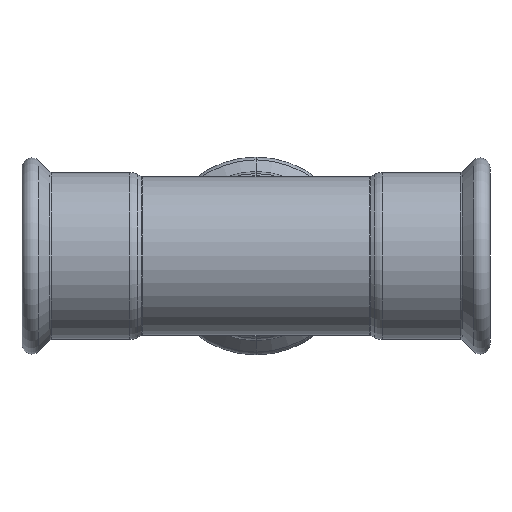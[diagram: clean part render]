
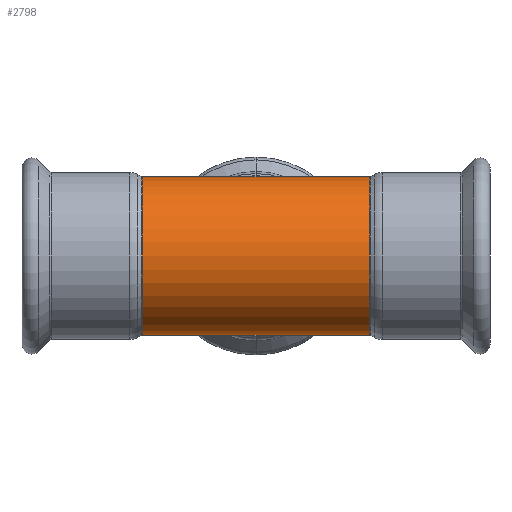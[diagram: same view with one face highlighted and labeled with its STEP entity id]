
A CAD part, front view. The second image highlights one B-rep face of the part: STEP entity #2798.
In plain terms, the highlighted cylindrical face has radius 43.95 mm (diameter 87.9 mm), a partial arc.
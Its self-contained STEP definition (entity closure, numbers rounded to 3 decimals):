
#85 = FACE_OUTER_BOUND ( 'NONE', #4021, .T. ) ;
#267 = VERTEX_POINT ( 'NONE', #1912 ) ;
#346 = LINE ( 'NONE', #1224, #2095 ) ;
#397 = CARTESIAN_POINT ( 'NONE',  ( 27.146, 0., 43.95 ) ) ;
#567 = DIRECTION ( 'NONE',  ( -1., 0., 0. ) ) ;
#726 = DIRECTION ( 'NONE',  ( -1., 0., 0. ) ) ;
#765 = VECTOR ( 'NONE', #726, 1000. ) ;
#793 = DIRECTION ( 'NONE',  ( 0., 0., 1. ) ) ;
#796 = CIRCLE ( 'NONE', #1892, 43.95 ) ;
#864 = DIRECTION ( 'NONE',  ( 0., 0., 1. ) ) ;
#927 = DIRECTION ( 'NONE',  ( -1., 0., 0. ) ) ;
#991 = CARTESIAN_POINT ( 'NONE',  ( 27.146, 0., 43.95 ) ) ;
#1029 = EDGE_CURVE ( 'NONE', #3031, #1115, #1294, .T. ) ;
#1070 = DIRECTION ( 'NONE',  ( -1., 0., 0. ) ) ;
#1115 = VERTEX_POINT ( 'NONE', #1829 ) ;
#1182 = VERTEX_POINT ( 'NONE', #1984 ) ;
#1224 = CARTESIAN_POINT ( 'NONE',  ( 27.146, 0., -43.95 ) ) ;
#1294 = LINE ( 'NONE', #991, #3966 ) ;
#1549 = VERTEX_POINT ( 'NONE', #3579 ) ;
#1689 = EDGE_CURVE ( 'NONE', #1115, #3160, #2507, .T. ) ;
#1829 = CARTESIAN_POINT ( 'NONE',  ( 0., 0., 43.95 ) ) ;
#1892 = AXIS2_PLACEMENT_3D ( 'NONE', #3168, #567, #3524 ) ;
#1899 = CARTESIAN_POINT ( 'NONE',  ( 63.056, 0., 0. ) ) ;
#1912 = CARTESIAN_POINT ( 'NONE',  ( 63.056, 0., -43.95 ) ) ;
#1984 = CARTESIAN_POINT ( 'NONE',  ( 0., 0., -43.95 ) ) ;
#2095 = VECTOR ( 'NONE', #4247, 1000. ) ;
#2218 = EDGE_CURVE ( 'NONE', #267, #1182, #346, .T. ) ;
#2220 = CIRCLE ( 'NONE', #3412, 43.95 ) ;
#2506 = CARTESIAN_POINT ( 'NONE',  ( 63.056, 0., 43.95 ) ) ;
#2507 = LINE ( 'NONE', #397, #765 ) ;
#2651 = ORIENTED_EDGE ( 'NONE', *, *, #1029, .T. ) ;
#2752 = ORIENTED_EDGE ( 'NONE', *, *, #1689, .T. ) ;
#2798 = ADVANCED_FACE ( 'NONE', ( #85 ), #3423, .T. ) ;
#2975 = ORIENTED_EDGE ( 'NONE', *, *, #3294, .F. ) ;
#3007 = EDGE_CURVE ( 'NONE', #267, #3031, #2220, .T. ) ;
#3031 = VERTEX_POINT ( 'NONE', #2506 ) ;
#3042 = DIRECTION ( 'NONE',  ( -1., 0., 0. ) ) ;
#3075 = DIRECTION ( 'NONE',  ( -1., 0., 0. ) ) ;
#3093 = CARTESIAN_POINT ( 'NONE',  ( 27.146, 0., 0. ) ) ;
#3143 = AXIS2_PLACEMENT_3D ( 'NONE', #3093, #3075, #793 ) ;
#3160 = VERTEX_POINT ( 'NONE', #3333 ) ;
#3168 = CARTESIAN_POINT ( 'NONE',  ( -63.056, 0., 0. ) ) ;
#3176 = ORIENTED_EDGE ( 'NONE', *, *, #3007, .T. ) ;
#3286 = LINE ( 'NONE', #3363, #4237 ) ;
#3294 = EDGE_CURVE ( 'NONE', #1182, #1549, #3286, .T. ) ;
#3333 = CARTESIAN_POINT ( 'NONE',  ( -63.056, 0., 43.95 ) ) ;
#3363 = CARTESIAN_POINT ( 'NONE',  ( 27.146, 0., -43.95 ) ) ;
#3412 = AXIS2_PLACEMENT_3D ( 'NONE', #1899, #927, #864 ) ;
#3423 = CYLINDRICAL_SURFACE ( 'NONE', #3143, 43.95 ) ;
#3524 = DIRECTION ( 'NONE',  ( 0., 0., 1. ) ) ;
#3579 = CARTESIAN_POINT ( 'NONE',  ( -63.056, 0., -43.95 ) ) ;
#3696 = ORIENTED_EDGE ( 'NONE', *, *, #3714, .F. ) ;
#3714 = EDGE_CURVE ( 'NONE', #1549, #3160, #796, .T. ) ;
#3732 = ORIENTED_EDGE ( 'NONE', *, *, #2218, .F. ) ;
#3966 = VECTOR ( 'NONE', #3042, 1000. ) ;
#4021 = EDGE_LOOP ( 'NONE', ( #3732, #3176, #2651, #2752, #3696, #2975 ) ) ;
#4237 = VECTOR ( 'NONE', #1070, 1000. ) ;
#4247 = DIRECTION ( 'NONE',  ( -1., 0., 0. ) ) ;
